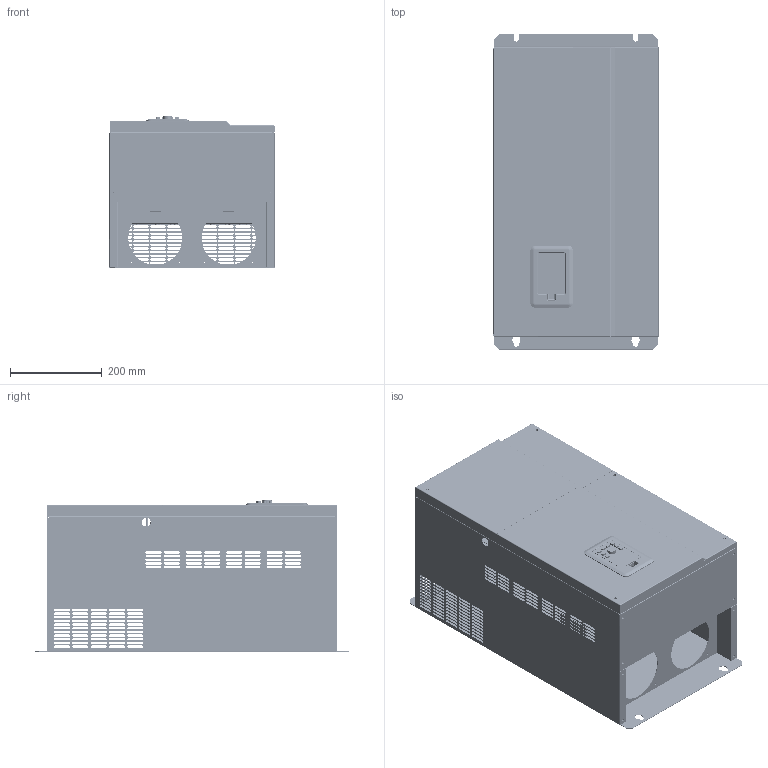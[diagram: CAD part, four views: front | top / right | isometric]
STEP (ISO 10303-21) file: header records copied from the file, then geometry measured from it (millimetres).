
FILE_DESCRIPTION(('STEP AP203'), '1');
FILE_NAME('Ïðåîáðàçîâàòåëü ÷àñòîòû_ LCI-G132_P160-4', '2024-11-01T06:39:30', ('admin'), (''), 'C3D Converter', 'C3D Toolkit', '');
FILE_SCHEMA(('CONFIG_CONTROL_DESIGN'));
Length unit declared in the file: millimetre
Products named in the file (31): LCI-G132_P160-4; LCI-G132; S-M3-1; BSO-M3-10; СБДINS LCI-KP-B; Панель управления; Панель управленния
Assembly tree (41 placements, depth 4):
  LCI-G132_P160-4
    LCI-G132
      LCI-G132
      LCI-G132
      LCI-G132
      LCI-G132
      LCI-G132
      LCI-G132
      LCI-G132
      LCI-G132
      LCI-G132
        LCI-G132
        LCI-G132
        LCI-G132  x2
        LCI-G132  x2
      LCI-G132
    LCI-G132  x2
    LCI-G132
    LCI-G132  x2
    LCI-G132
      LCI-G132
      S-M3-1  x4
    LCI-G132
      LCI-G132
      BSO-M3-10  x4
    (unnamed)
    СБДINS LCI-KP-B
      Панель управления
      Панель управленния
      Панель управления
      Панель управления
      Панель управленния
Bounding box: 360 x 687 x 332.1 mm (x, y, z)
Volume: 2258205.6 mm3; surface area: 3120281.4 mm2
Topology: 38 solids, 38 shells, 4367 faces, 11317 edges, 7348 vertices
Faces by surface type: plane 2961, cylinder 1352, cone 24, torus 18, bspline 12
Full cylindrical faces by diameter (mm): 1.2 x32, 2.4 x4, 2.459 x8, 2.6 x8, 3 x35, 3.4 x8, 3.5 x5, 4 x46, 4.2 x4, 4.22 x4, 4.3 x4, 5 x52, 5.2 x5, 5.4 x17, 6 x62, 6.2 x1, 6.3 x4, 6.5 x2, 7 x2, 8 x66, 10 x26, 20 x4, 92 x6, 118 x2
Entity records: 150859 total; most frequent: CARTESIAN_POINT 23708, DIRECTION 20514, ORIENTED_EDGE 19990, EDGE_CURVE 9995, LINE 7272, VECTOR 7272, VERTEX_POINT 6737, AXIS2_PLACEMENT_3D 6621
